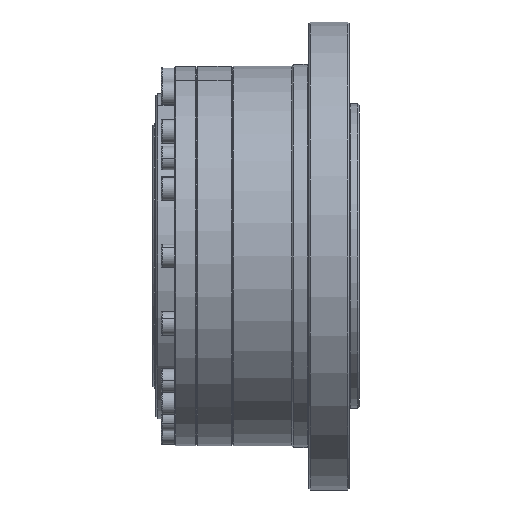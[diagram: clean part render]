
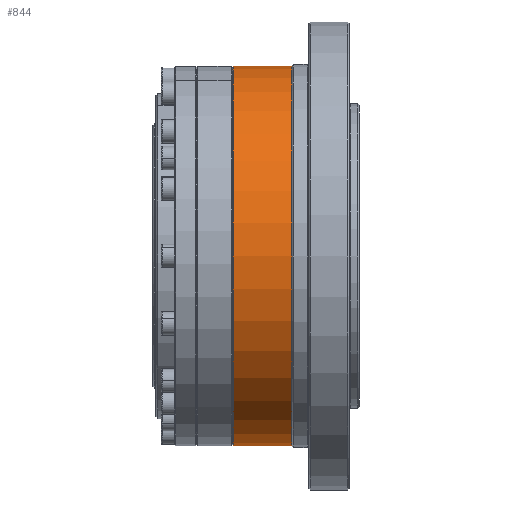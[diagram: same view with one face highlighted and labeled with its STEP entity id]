
A CAD part, front view. The second image highlights one B-rep face of the part: STEP entity #844.
In plain terms, the highlighted cylindrical face has radius 56 mm (diameter 112 mm), a partial arc.
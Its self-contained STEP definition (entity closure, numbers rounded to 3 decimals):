
#844 = ADVANCED_FACE ( 'NONE', ( #16728 ), #5922, .T. ) ;
#860 = EDGE_CURVE ( 'NONE', #14591, #16283, #16103, .T. ) ;
#1378 = DIRECTION ( 'NONE',  ( 1., 0., 0. ) ) ;
#1470 = CARTESIAN_POINT ( 'NONE',  ( 25.726, 0., 0. ) ) ;
#2892 = LINE ( 'NONE', #16840, #13078 ) ;
#3030 = EDGE_CURVE ( 'NONE', #8191, #21375, #21410, .T. ) ;
#3329 = CARTESIAN_POINT ( 'NONE',  ( 42.926, 0., 56. ) ) ;
#3513 = DIRECTION ( 'NONE',  ( 0., 0., -1. ) ) ;
#4441 = EDGE_LOOP ( 'NONE', ( #18799, #19381, #18914, #10978 ) ) ;
#5330 = LINE ( 'NONE', #25674, #15500 ) ;
#5345 = DIRECTION ( 'NONE',  ( 1., 0., 0. ) ) ;
#5922 = CYLINDRICAL_SURFACE ( 'NONE', #19558, 56. ) ;
#7237 = EDGE_CURVE ( 'NONE', #14591, #8191, #5330, .T. ) ;
#8191 = VERTEX_POINT ( 'NONE', #3329 ) ;
#9481 = DIRECTION ( 'NONE',  ( 1., 0., 0. ) ) ;
#10978 = ORIENTED_EDGE ( 'NONE', *, *, #3030, .F. ) ;
#13078 = VECTOR ( 'NONE', #22976, 1000. ) ;
#13581 = CARTESIAN_POINT ( 'NONE',  ( 25.726, 0., 56. ) ) ;
#14352 = CARTESIAN_POINT ( 'NONE',  ( 42.926, 0., -56. ) ) ;
#14591 = VERTEX_POINT ( 'NONE', #13581 ) ;
#15433 = AXIS2_PLACEMENT_3D ( 'NONE', #1470, #15702, #3513 ) ;
#15500 = VECTOR ( 'NONE', #1378, 1000. ) ;
#15702 = DIRECTION ( 'NONE',  ( 1., 0., 0. ) ) ;
#16103 = CIRCLE ( 'NONE', #15433, 56. ) ;
#16283 = VERTEX_POINT ( 'NONE', #23275 ) ;
#16728 = FACE_OUTER_BOUND ( 'NONE', #4441, .T. ) ;
#16840 = CARTESIAN_POINT ( 'NONE',  ( 63.433, 0., -56. ) ) ;
#17531 = CARTESIAN_POINT ( 'NONE',  ( 42.926, 0., 0. ) ) ;
#18799 = ORIENTED_EDGE ( 'NONE', *, *, #7237, .F. ) ;
#18914 = ORIENTED_EDGE ( 'NONE', *, *, #25220, .T. ) ;
#19381 = ORIENTED_EDGE ( 'NONE', *, *, #860, .T. ) ;
#19437 = AXIS2_PLACEMENT_3D ( 'NONE', #17531, #5345, #19603 ) ;
#19558 = AXIS2_PLACEMENT_3D ( 'NONE', #19649, #9481, #23694 ) ;
#19603 = DIRECTION ( 'NONE',  ( 0., 0., -1. ) ) ;
#19649 = CARTESIAN_POINT ( 'NONE',  ( 63.433, 0., 0. ) ) ;
#21375 = VERTEX_POINT ( 'NONE', #14352 ) ;
#21410 = CIRCLE ( 'NONE', #19437, 56. ) ;
#22976 = DIRECTION ( 'NONE',  ( 1., 0., 0. ) ) ;
#23275 = CARTESIAN_POINT ( 'NONE',  ( 25.726, 0., -56. ) ) ;
#23694 = DIRECTION ( 'NONE',  ( 0., 0., -1. ) ) ;
#25220 = EDGE_CURVE ( 'NONE', #16283, #21375, #2892, .T. ) ;
#25674 = CARTESIAN_POINT ( 'NONE',  ( 63.433, 0., 56. ) ) ;
